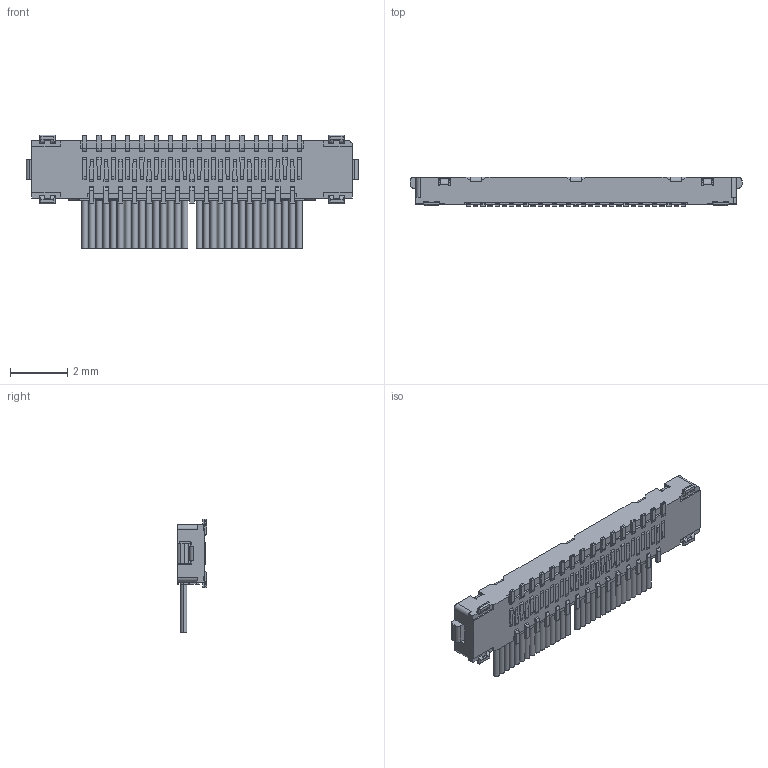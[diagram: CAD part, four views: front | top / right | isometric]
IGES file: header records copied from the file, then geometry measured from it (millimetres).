
Start section: SolidWorks IGES file using analytic representation for surfaces
Global section: file name: C:\Working\koyanagi\CABLINE-UX II\251222 CABLINE-UX II_Web—p’†ŠÔƒtƒ@ƒCƒ‹\IGES\20531-030T-02-1+20533-030E CABLINE-UX II MATING ASSEMBLY_IGES_R4R1R7_ALL.IGS; native system: SolidWorks 2023; preprocessor: SolidWorks 2023; author: 09051; date: 251225.142138; units: millimetre
Bounding box: 11.6 x 1.04 x 3.98 mm (x, y, z)
Surface area: 137.8 mm2 (no closed solid volume)
Topology: 0 solids, 0 shells, 1260 faces, 8017 edges, 7978 vertices
Faces by surface type: bspline 951, revolution 309
